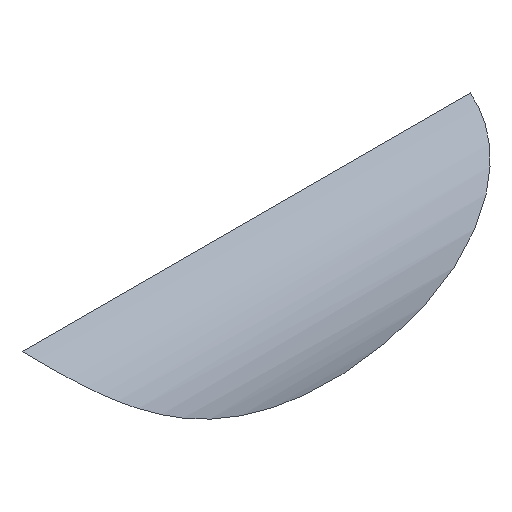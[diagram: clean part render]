
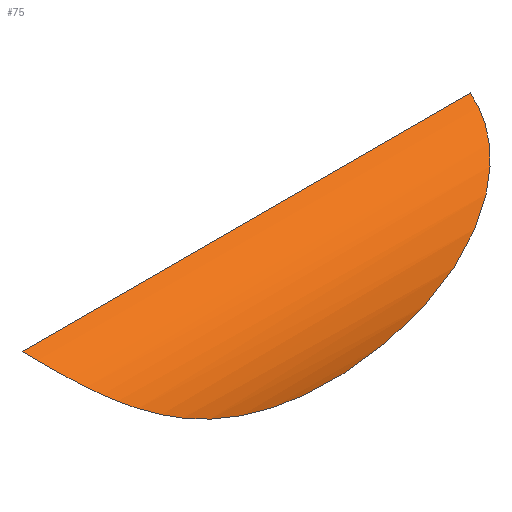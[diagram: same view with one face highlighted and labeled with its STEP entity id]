
A CAD part, isometric view. The second image highlights one B-rep face of the part: STEP entity #75.
In plain terms, the highlighted cylindrical face has radius 23.989 mm (diameter 47.979 mm), a partial arc.
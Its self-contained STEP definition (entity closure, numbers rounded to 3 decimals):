
#71 = EDGE_CURVE( '', #147, #137, #181, .T. );
#75 = ADVANCED_FACE( '', ( #186 ), #187, .T. );
#99 = EDGE_CURVE( '', #137, #147, #212, .T. );
#137 = VERTEX_POINT( '', #256 );
#147 = VERTEX_POINT( '', #267 );
#181 = LINE( '', #295, #296 );
#186 = FACE_OUTER_BOUND( '', #301, .T. );
#187 = CYLINDRICAL_SURFACE( '', #302, 23.989 );
#212 = B_SPLINE_CURVE_WITH_KNOTS( '', 3, ( #335, #336, #337, #338, #339, #340, #341, #342, #343, #344, #345, #346, #347, #348, #349, #350, #351, #352, #353, #354, #355, #356, #357, #358, #359, #360, #361, #362, #363, #364, #365, #366, #367, #368, #369, #370, #371, #372, #373, #374, #375, #376, #377, #378, #379, #380, #381, #382, #383, #384, #385, #386, #387, #388, #389, #390, #391, #392, #393, #394, #395, #396, #397, #398, #399, #400, #401, #402, #403, #404, #405, #406, #407, #408, #409, #410, #411, #412 ), .UNSPECIFIED., .F., .F., ( 4, 2, 2, 2, 2, 2, 2, 2, 2, 2, 2, 2, 2, 2, 2, 2, 2, 2, 2, 2, 2, 2, 2, 2, 2, 2, 2, 2, 2, 2, 2, 2, 2, 2, 2, 2, 2, 2, 4 ), ( 1.044, 1.997, 3.995, 5.992, 7.99, 9.987, 11.984, 15.979, 19.048, 22.117, 25.186, 28.255, 31.836, 35.417, 38.998, 42.58, 46.161, 49.742, 53.323, 56.905, 60.486, 64.067, 67.648, 71.229, 74.811, 78.392, 81.973, 85.554, 88.623, 91.692, 94.761, 97.83, 101.825, 103.822, 105.82, 107.817, 109.814, 111.812, 112.765 ), .UNSPECIFIED. );
#256 = CARTESIAN_POINT( '', ( -31., 0., 3. ) );
#267 = CARTESIAN_POINT( '', ( 63., 0., 3. ) );
#295 = CARTESIAN_POINT( '', ( 63., 0., 3. ) );
#296 = VECTOR( '', #544, 1. );
#301 = EDGE_LOOP( '', ( #554, #555 ) );
#302 = AXIS2_PLACEMENT_3D( '', #556, #557, #558 );
#335 = CARTESIAN_POINT( '', ( -31., 0., 3. ) );
#336 = CARTESIAN_POINT( '', ( -30.925, -0.303, 2.922 ) );
#337 = CARTESIAN_POINT( '', ( -30.844, -0.605, 2.838 ) );
#338 = CARTESIAN_POINT( '', ( -30.573, -1.534, 2.56 ) );
#339 = CARTESIAN_POINT( '', ( -30.362, -2.156, 2.345 ) );
#340 = CARTESIAN_POINT( '', ( -29.887, -3.37, 1.87 ) );
#341 = CARTESIAN_POINT( '', ( -29.623, -3.964, 1.609 ) );
#342 = CARTESIAN_POINT( '', ( -29.042, -5.114, 1.048 ) );
#343 = CARTESIAN_POINT( '', ( -28.726, -5.671, 0.748 ) );
#344 = CARTESIAN_POINT( '', ( -28.048, -6.74, 0.118 ) );
#345 = CARTESIAN_POINT( '', ( -27.685, -7.253, -0.212 ) );
#346 = CARTESIAN_POINT( '', ( -26.919, -8.229, -0.893 ) );
#347 = CARTESIAN_POINT( '', ( -26.515, -8.692, -1.243 ) );
#348 = CARTESIAN_POINT( '', ( -25.257, -10.004, -2.306 ) );
#349 = CARTESIAN_POINT( '', ( -24.353, -10.772, -3.032 ) );
#350 = CARTESIAN_POINT( '', ( -22.726, -11.943, -4.267 ) );
#351 = CARTESIAN_POINT( '', ( -21.955, -12.428, -4.829 ) );
#352 = CARTESIAN_POINT( '', ( -20.316, -13.321, -5.964 ) );
#353 = CARTESIAN_POINT( '', ( -19.449, -13.729, -6.536 ) );
#354 = CARTESIAN_POINT( '', ( -17.659, -14.461, -7.654 ) );
#355 = CARTESIAN_POINT( '', ( -16.737, -14.784, -8.199 ) );
#356 = CARTESIAN_POINT( '', ( -14.89, -15.349, -9.231 ) );
#357 = CARTESIAN_POINT( '', ( -13.965, -15.591, -9.718 ) );
#358 = CARTESIAN_POINT( '', ( -12.022, -16.038, -10.686 ) );
#359 = CARTESIAN_POINT( '', ( -10.934, -16.249, -11.192 ) );
#360 = CARTESIAN_POINT( '', ( -8.69, -16.619, -12.159 ) );
#361 = CARTESIAN_POINT( '', ( -7.534, -16.777, -12.619 ) );
#362 = CARTESIAN_POINT( '', ( -5.168, -17.047, -13.482 ) );
#363 = CARTESIAN_POINT( '', ( -3.959, -17.16, -13.884 ) );
#364 = CARTESIAN_POINT( '', ( -1.503, -17.35, -14.621 ) );
#365 = CARTESIAN_POINT( '', ( -0.256, -17.426, -14.955 ) );
#366 = CARTESIAN_POINT( '', ( 2.258, -17.553, -15.549 ) );
#367 = CARTESIAN_POINT( '', ( 3.525, -17.602, -15.809 ) );
#368 = CARTESIAN_POINT( '', ( 6.062, -17.681, -16.251 ) );
#369 = CARTESIAN_POINT( '', ( 7.332, -17.71, -16.434 ) );
#370 = CARTESIAN_POINT( '', ( 9.857, -17.754, -16.722 ) );
#371 = CARTESIAN_POINT( '', ( 11.111, -17.77, -16.828 ) );
#372 = CARTESIAN_POINT( '', ( 13.586, -17.789, -16.967 ) );
#373 = CARTESIAN_POINT( '', ( 14.806, -17.793, -17. ) );
#374 = CARTESIAN_POINT( '', ( 17.194, -17.793, -17. ) );
#375 = CARTESIAN_POINT( '', ( 18.414, -17.789, -16.967 ) );
#376 = CARTESIAN_POINT( '', ( 20.889, -17.77, -16.828 ) );
#377 = CARTESIAN_POINT( '', ( 22.143, -17.754, -16.722 ) );
#378 = CARTESIAN_POINT( '', ( 24.668, -17.71, -16.434 ) );
#379 = CARTESIAN_POINT( '', ( 25.938, -17.681, -16.251 ) );
#380 = CARTESIAN_POINT( '', ( 28.475, -17.602, -15.809 ) );
#381 = CARTESIAN_POINT( '', ( 29.742, -17.553, -15.549 ) );
#382 = CARTESIAN_POINT( '', ( 32.256, -17.426, -14.955 ) );
#383 = CARTESIAN_POINT( '', ( 33.503, -17.35, -14.621 ) );
#384 = CARTESIAN_POINT( '', ( 35.959, -17.16, -13.884 ) );
#385 = CARTESIAN_POINT( '', ( 37.168, -17.047, -13.482 ) );
#386 = CARTESIAN_POINT( '', ( 39.534, -16.777, -12.619 ) );
#387 = CARTESIAN_POINT( '', ( 40.69, -16.619, -12.159 ) );
#388 = CARTESIAN_POINT( '', ( 42.934, -16.249, -11.192 ) );
#389 = CARTESIAN_POINT( '', ( 44.022, -16.038, -10.686 ) );
#390 = CARTESIAN_POINT( '', ( 45.965, -15.591, -9.718 ) );
#391 = CARTESIAN_POINT( '', ( 46.89, -15.349, -9.231 ) );
#392 = CARTESIAN_POINT( '', ( 48.737, -14.784, -8.199 ) );
#393 = CARTESIAN_POINT( '', ( 49.659, -14.461, -7.654 ) );
#394 = CARTESIAN_POINT( '', ( 51.449, -13.729, -6.536 ) );
#395 = CARTESIAN_POINT( '', ( 52.316, -13.321, -5.964 ) );
#396 = CARTESIAN_POINT( '', ( 53.955, -12.428, -4.829 ) );
#397 = CARTESIAN_POINT( '', ( 54.726, -11.943, -4.267 ) );
#398 = CARTESIAN_POINT( '', ( 56.353, -10.772, -3.032 ) );
#399 = CARTESIAN_POINT( '', ( 57.257, -10.004, -2.306 ) );
#400 = CARTESIAN_POINT( '', ( 58.515, -8.692, -1.243 ) );
#401 = CARTESIAN_POINT( '', ( 58.919, -8.229, -0.893 ) );
#402 = CARTESIAN_POINT( '', ( 59.685, -7.253, -0.212 ) );
#403 = CARTESIAN_POINT( '', ( 60.048, -6.74, 0.118 ) );
#404 = CARTESIAN_POINT( '', ( 60.726, -5.671, 0.748 ) );
#405 = CARTESIAN_POINT( '', ( 61.042, -5.114, 1.048 ) );
#406 = CARTESIAN_POINT( '', ( 61.623, -3.964, 1.609 ) );
#407 = CARTESIAN_POINT( '', ( 61.887, -3.37, 1.87 ) );
#408 = CARTESIAN_POINT( '', ( 62.362, -2.156, 2.345 ) );
#409 = CARTESIAN_POINT( '', ( 62.573, -1.534, 2.56 ) );
#410 = CARTESIAN_POINT( '', ( 62.844, -0.605, 2.838 ) );
#411 = CARTESIAN_POINT( '', ( 62.925, -0.303, 2.922 ) );
#412 = CARTESIAN_POINT( '', ( 63., 0., 3. ) );
#544 = DIRECTION( '', ( -1., 0., 0. ) );
#554 = ORIENTED_EDGE( '', *, *, #99, .T. );
#555 = ORIENTED_EDGE( '', *, *, #71, .T. );
#556 = CARTESIAN_POINT( '', ( 63., 5.977, -20.233 ) );
#557 = DIRECTION( '', ( 1., 0., 0. ) );
#558 = DIRECTION( '', ( 0., -0.249, 0.968 ) );
